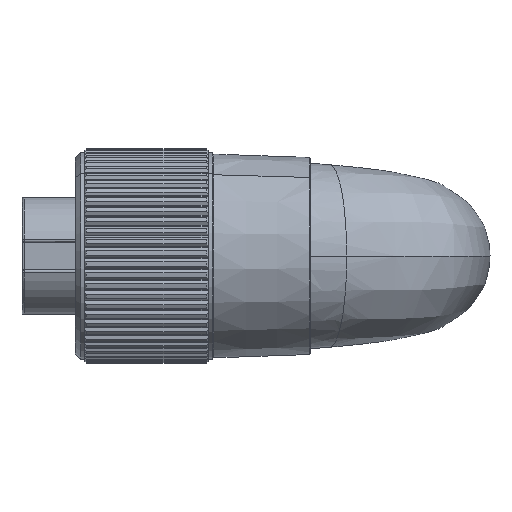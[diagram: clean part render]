
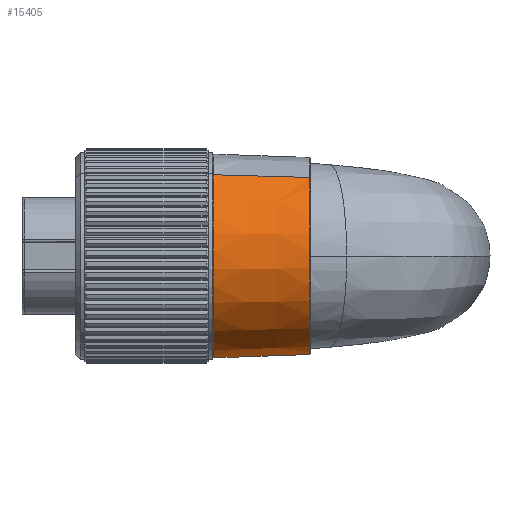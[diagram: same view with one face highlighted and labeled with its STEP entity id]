
A CAD part, front view. The second image highlights one B-rep face of the part: STEP entity #15405.
In plain terms, the highlighted conical face has half-angle 2 degrees and reference radius 18.119 mm.
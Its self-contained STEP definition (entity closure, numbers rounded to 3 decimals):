
#429 = EDGE_CURVE ( 'NONE', #28215, #13025, #21750, .T. ) ;
#1598 = AXIS2_PLACEMENT_3D ( 'NONE', #37674, #41708, #18856 ) ;
#3197 = ORIENTED_EDGE ( 'NONE', *, *, #44130, .T. ) ;
#8117 = EDGE_CURVE ( 'NONE', #43091, #10296, #42075, .T. ) ;
#10296 = VERTEX_POINT ( 'NONE', #44605 ) ;
#11379 = AXIS2_PLACEMENT_3D ( 'NONE', #13675, #17811, #44465 ) ;
#11528 = DIRECTION ( 'NONE',  ( -1., 0., 0. ) ) ;
#13025 = VERTEX_POINT ( 'NONE', #42185 ) ;
#13675 = CARTESIAN_POINT ( 'NONE',  ( 55.45, 0., 0. ) ) ;
#15405 = ADVANCED_FACE ( 'NONE', ( #23204 ), #33339, .T. ) ;
#17471 = CIRCLE ( 'NONE', #19811, 18.732 ) ;
#17811 = DIRECTION ( 'NONE',  ( -1., 0., 0. ) ) ;
#17891 = EDGE_LOOP ( 'NONE', ( #3197, #36255, #49305, #43924 ) ) ;
#18856 = DIRECTION ( 'NONE',  ( 0., 0.605, -0.796 ) ) ;
#19811 = AXIS2_PLACEMENT_3D ( 'NONE', #22822, #11528, #25985 ) ;
#19838 = CARTESIAN_POINT ( 'NONE',  ( 55.45, 10.959, -14.428 ) ) ;
#21750 = LINE ( 'NONE', #19838, #27114 ) ;
#22822 = CARTESIAN_POINT ( 'NONE',  ( 37.866, 0., 0. ) ) ;
#23087 = CARTESIAN_POINT ( 'NONE',  ( 55.45, -10.959, 14.428 ) ) ;
#23204 = FACE_OUTER_BOUND ( 'NONE', #17891, .T. ) ;
#25985 = DIRECTION ( 'NONE',  ( 0., 0.605, -0.796 ) ) ;
#27114 = VECTOR ( 'NONE', #35168, 1000. ) ;
#28215 = VERTEX_POINT ( 'NONE', #40697 ) ;
#33339 = CONICAL_SURFACE ( 'NONE', #11379, 18.118, 0.035 ) ;
#34784 = CIRCLE ( 'NONE', #1598, 18.118 ) ;
#35111 = CARTESIAN_POINT ( 'NONE',  ( 55.45, -10.959, 14.428 ) ) ;
#35168 = DIRECTION ( 'NONE',  ( -0.999, 0.021, -0.028 ) ) ;
#36255 = ORIENTED_EDGE ( 'NONE', *, *, #8117, .T. ) ;
#37674 = CARTESIAN_POINT ( 'NONE',  ( 55.45, 0., 0. ) ) ;
#40697 = CARTESIAN_POINT ( 'NONE',  ( 55.45, 10.959, -14.428 ) ) ;
#41708 = DIRECTION ( 'NONE',  ( -1., 0., 0. ) ) ;
#42075 = LINE ( 'NONE', #35111, #44468 ) ;
#42185 = CARTESIAN_POINT ( 'NONE',  ( 37.866, 11.33, -14.917 ) ) ;
#42974 = DIRECTION ( 'NONE',  ( -0.999, -0.021, 0.028 ) ) ;
#43091 = VERTEX_POINT ( 'NONE', #23087 ) ;
#43924 = ORIENTED_EDGE ( 'NONE', *, *, #429, .F. ) ;
#44130 = EDGE_CURVE ( 'NONE', #28215, #43091, #34784, .T. ) ;
#44465 = DIRECTION ( 'NONE',  ( 0., 0.605, -0.796 ) ) ;
#44468 = VECTOR ( 'NONE', #42974, 1000. ) ;
#44562 = EDGE_CURVE ( 'NONE', #13025, #10296, #17471, .T. ) ;
#44605 = CARTESIAN_POINT ( 'NONE',  ( 37.866, -11.33, 14.917 ) ) ;
#49305 = ORIENTED_EDGE ( 'NONE', *, *, #44562, .F. ) ;
